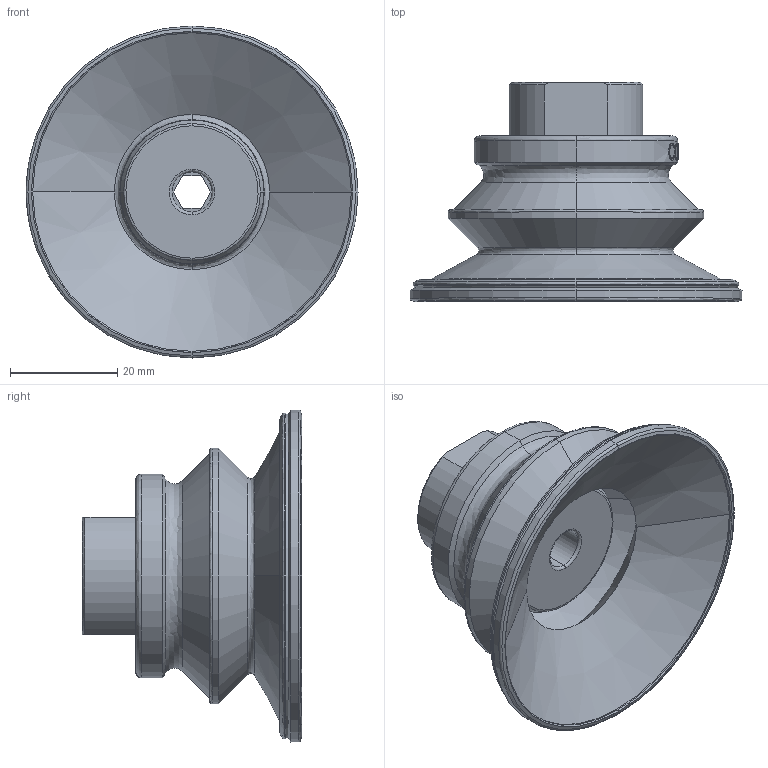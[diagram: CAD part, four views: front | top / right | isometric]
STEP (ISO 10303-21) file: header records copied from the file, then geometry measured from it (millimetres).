
FILE_DESCRIPTION (( 'STEP AP214' ), '1' );
FILE_NAME ('SAB-60-G3-8IG.STEP', '2023-03-07T01:22:53', ( 'Windows User' ), ( 'P R C' ), 'SwSTEP 2.0', 'SolidWorks 2019', '' );
FILE_SCHEMA (( 'AUTOMOTIVE_DESIGN' ));
Length unit declared in the file: millimetre
Products named in the file (1): SAB-60-G3-8IG
Bounding box: 62 x 41 x 62 mm (x, y, z)
Volume: 25322.1 mm3; surface area: 15239 mm2
Topology: 1 solids, 1 shells, 140 faces, 340 edges, 214 vertices
Faces by surface type: bspline 55, cone 30, plane 29, cylinder 26
Entity records: 15228 total; most frequent: CARTESIAN_POINT 10570, ORIENTED_EDGE 680, DIRECTION 592, EDGE_CURVE 340, AXIS2_PLACEMENT_3D 236, VERTEX_POINT 214, EDGE_LOOP 154, CIRCLE 150
